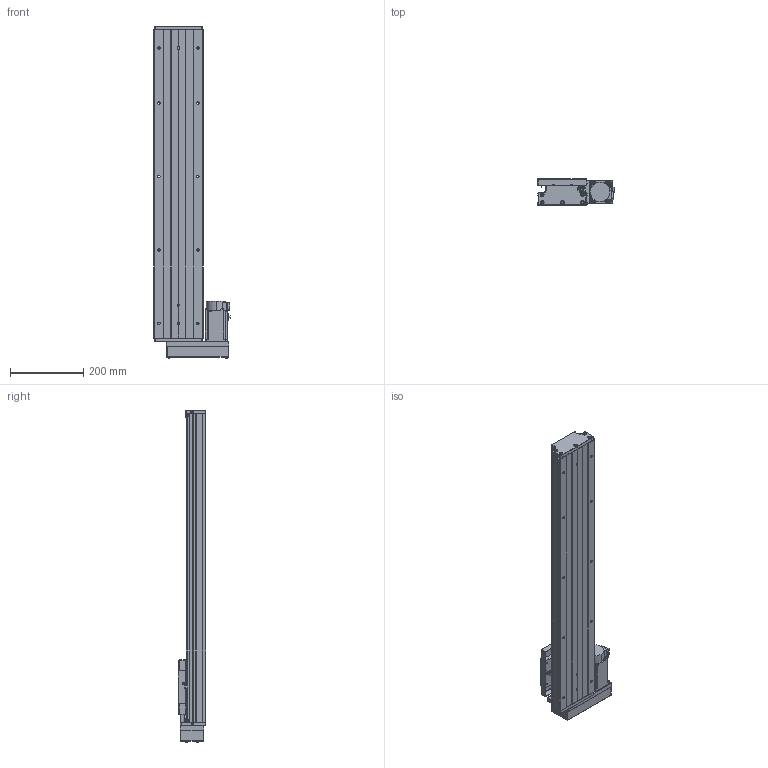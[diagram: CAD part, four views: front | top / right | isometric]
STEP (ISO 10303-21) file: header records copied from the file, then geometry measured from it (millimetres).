
FILE_DESCRIPTION (( 'STEP AP203' ), '1' );
FILE_NAME ('CTH130-650-BR-M40-C4.step', '2023-06-30T02:52:42', ( '微软用户' ), ( '微软中国' ), 'SwSTEP 2.0', 'SolidWorks 2020', '' );
FILE_SCHEMA (( 'CONFIG_CONTROL_DESIGN' ));
Length unit declared in the file: millimetre
Products named in the file (20): CTH130-650-BR-M40-C4; GBT70.1 M5℅16; GBT 70.2-M3¡Á5_M3¡Á6; GTH14-001_650; CTHA60-017; す晦芛蹟隊 M3℅5; CTH130-002_GTH14-002; EE_SX911P_R; HG-KN43J-S100; GB T308.1-2013-6.35; CTHA60-016; GBT 70.2-M4¡Á35_M4¡Á35; GTH14-004; GBT 70.1-M3℅5; GTH14-015-2_CTHA86-015-2; GTH14-005; GBT77-2000 M3×3; GTH14-033; GB1155-6X6; CTH130-031
Assembly tree (60 placements, depth 2):
  CTH130-650-BR-M40-C4
    GTH14-001_650
    CTH130-002_GTH14-002
    GB T308.1-2013-6.35  x2
    GTH14-004
    GTH14-005
    GB1155-6X6  x2
    GBT70.1 M5℅16  x10
    CTHA60-017  x3
    EE_SX911P_R  x3
    CTHA60-016  x2
    GBT 70.1-M3℅5  x6
    GBT77-2000 M3×3  x6
    CTH130-031
    GBT 70.2-M3¡Á5_M3¡Á6  x8
    す晦芛蹟隊 M3℅5  x6
    HG-KN43J-S100
    GBT 70.2-M4¡Á35_M4¡Á35  x4
    GTH14-015-2_CTHA86-015-2
    GTH14-033
Bounding box: 209.3 x 76 x 904.2 mm (x, y, z)
Volume: 4869469.8 mm3; surface area: 824918.8 mm2
Topology: 63 solids, 63 shells, 2435 faces, 5797 edges, 3585 vertices
Faces by surface type: plane 1310, cylinder 646, cone 299, torus 124, sphere 36, bspline 20
Entity records: 43924 total; most frequent: CARTESIAN_POINT 9847, DIRECTION 6402, ORIENTED_EDGE 6300, EDGE_CURVE 3150, AXIS2_PLACEMENT_3D 2184, VECTOR 2034, LINE 2034, VERTEX_POINT 1995
